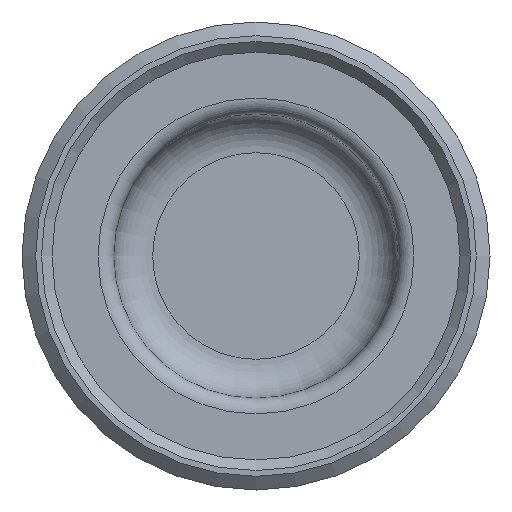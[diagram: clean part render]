
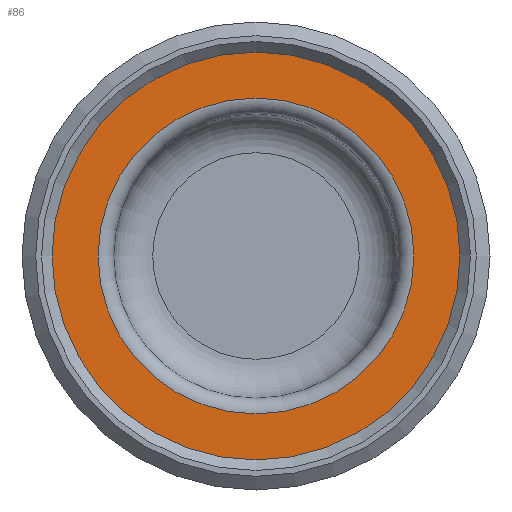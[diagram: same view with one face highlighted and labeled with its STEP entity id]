
A CAD part, front view. The second image highlights one B-rep face of the part: STEP entity #86.
In plain terms, the highlighted planar face has unit normal (0, -1, 0).
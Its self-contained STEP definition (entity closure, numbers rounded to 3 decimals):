
#86 = ADVANCED_FACE( '', ( #134, #135 ), #136, .T. );
#134 = FACE_OUTER_BOUND( '', #210, .T. );
#135 = FACE_BOUND( '', #211, .T. );
#136 = PLANE( '', #212 );
#210 = EDGE_LOOP( '', ( #313 ) );
#211 = EDGE_LOOP( '', ( #314 ) );
#212 = AXIS2_PLACEMENT_3D( '', #315, #316, #317 );
#313 = ORIENTED_EDGE( '', *, *, #468, .T. );
#314 = ORIENTED_EDGE( '', *, *, #469, .F. );
#315 = CARTESIAN_POINT( '', ( 4.05, 1.8, 0. ) );
#316 = DIRECTION( '', ( 0., -1., 0. ) );
#317 = DIRECTION( '', ( 0., 0., -1. ) );
#468 = EDGE_CURVE( '', #536, #536, #537, .T. );
#469 = EDGE_CURVE( '', #538, #538, #539, .T. );
#536 = VERTEX_POINT( '', #758 );
#537 = CIRCLE( '', #759, 5.3 );
#538 = VERTEX_POINT( '', #760 );
#539 = CIRCLE( '', #761, 4.05 );
#758 = CARTESIAN_POINT( '', ( 0., 1.8, -5.3 ) );
#759 = AXIS2_PLACEMENT_3D( '', #1017, #1018, #1019 );
#760 = CARTESIAN_POINT( '', ( 0., 1.8, -4.05 ) );
#761 = AXIS2_PLACEMENT_3D( '', #1020, #1021, #1022 );
#1017 = CARTESIAN_POINT( '', ( 0., 1.8, 0. ) );
#1018 = DIRECTION( '', ( 0., -1., 0. ) );
#1019 = DIRECTION( '', ( 0., 0., -1. ) );
#1020 = CARTESIAN_POINT( '', ( 0., 1.8, 0. ) );
#1021 = DIRECTION( '', ( 0., -1., 0. ) );
#1022 = DIRECTION( '', ( 0., 0., -1. ) );
